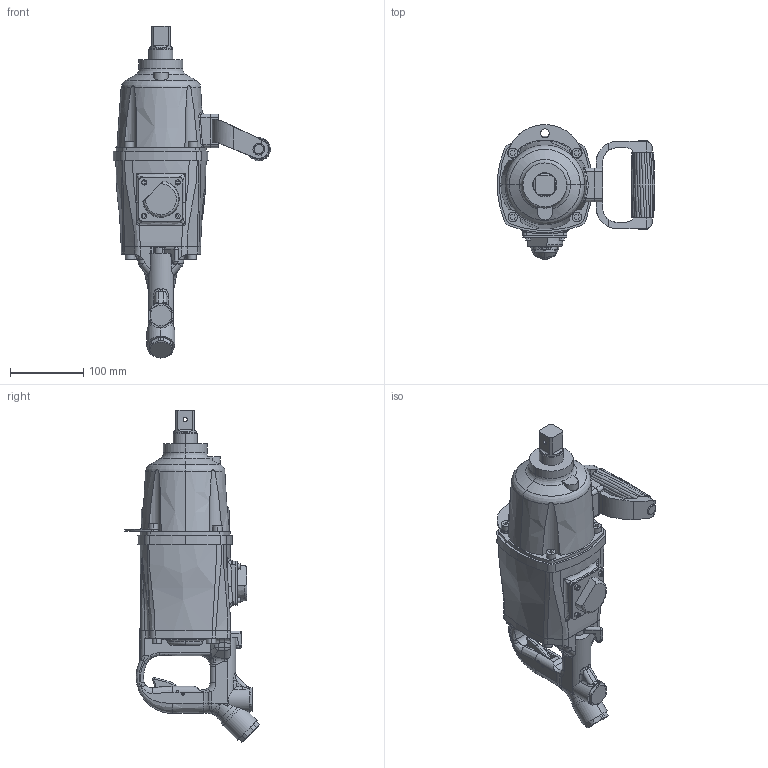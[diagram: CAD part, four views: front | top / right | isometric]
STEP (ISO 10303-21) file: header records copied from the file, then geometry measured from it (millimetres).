
FILE_DESCRIPTION (( 'STEP AP214' ), '1' );
FILE_NAME ('UXR-3000S(IN).STEP', '2006-09-06T06:15:34', ( '' ), ( '' ), 'SwSTEP 2.0', 'SolidWorks 2004073', '' );
FILE_SCHEMA (( 'AUTOMOTIVE_DESIGN' ));
Length unit declared in the file: millimetre
Products named in the file (7): 1750102_UXR-T3000S(IN)_蹬怮椔; 1753192_蹬怮椔; 1754393_蹬怮椔; 1750252_蹬怮椔; 1032120_蹬怮椔; UXR-3000S(IN); 0851071_蹬怮椔
Assembly tree (6 placements, depth 2):
  UXR-3000S(IN)
    1750102_UXR-T3000S(IN)_蹬怮椔
    1753192_蹬怮椔
    1032120_蹬怮椔
    0851071_蹬怮椔
    1750252_蹬怮椔
    1754393_蹬怮椔
Bounding box: 215.15 x 183.73 x 454.14 mm (x, y, z)
Volume: 3559206.9 mm3; surface area: 274025.2 mm2
Topology: 6 solids, 6 shells, 980 faces, 2595 edges, 1666 vertices
Faces by surface type: plane 357, cylinder 305, bspline 256, torus 37, cone 15, sphere 10
Entity records: 93442 total; most frequent: CARTESIAN_POINT 66662, ORIENTED_EDGE 5158, DIRECTION 3800, EDGE_CURVE 2579, VERTEX_POINT 1663, AXIS2_PLACEMENT_3D 1377, EDGE_LOOP 1052, VECTOR 1046
